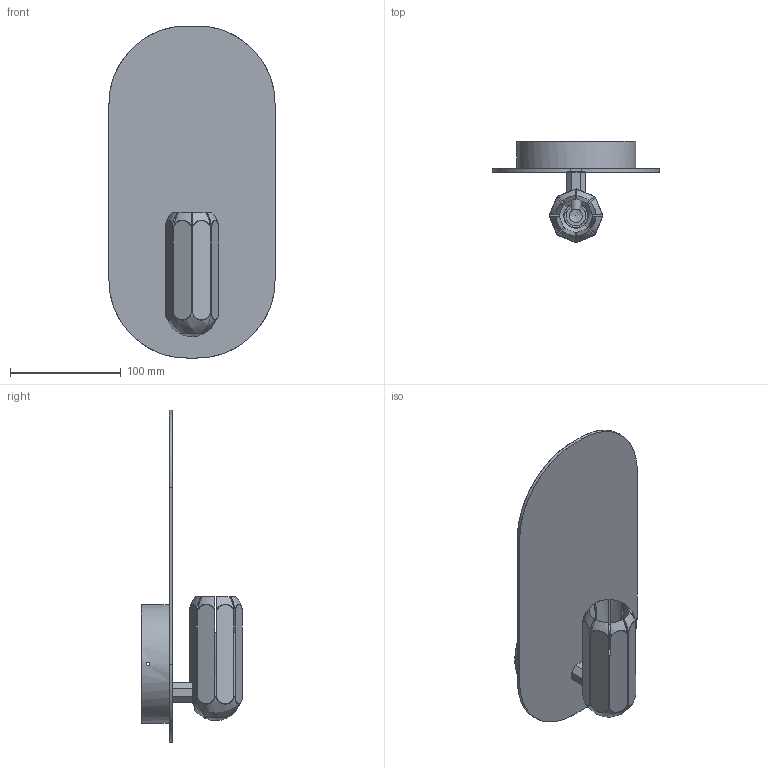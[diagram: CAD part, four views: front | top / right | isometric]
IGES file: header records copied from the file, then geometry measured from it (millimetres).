
Global section: file name: C:\Users\Design PC\Desktop\SERVER\TO UPLOAD ON THE HK SERVER\CAD Files Website\Final CAD\Innermost_Brixton Wall Light.igs; native system: Rhinoceros ( Oct 24 2012 ); preprocessor: Trout Lake IGES 012 Oct 24 2012; date: 180711.101045; units: millimetre
Bounding box: 150 x 91.37 x 300 mm (x, y, z)
Surface area: 128644.8 mm2 (no closed solid volume)
Topology: 0 solids, 0 shells, 123 faces, 1234 edges, 1232 vertices
Faces by surface type: bspline 123
